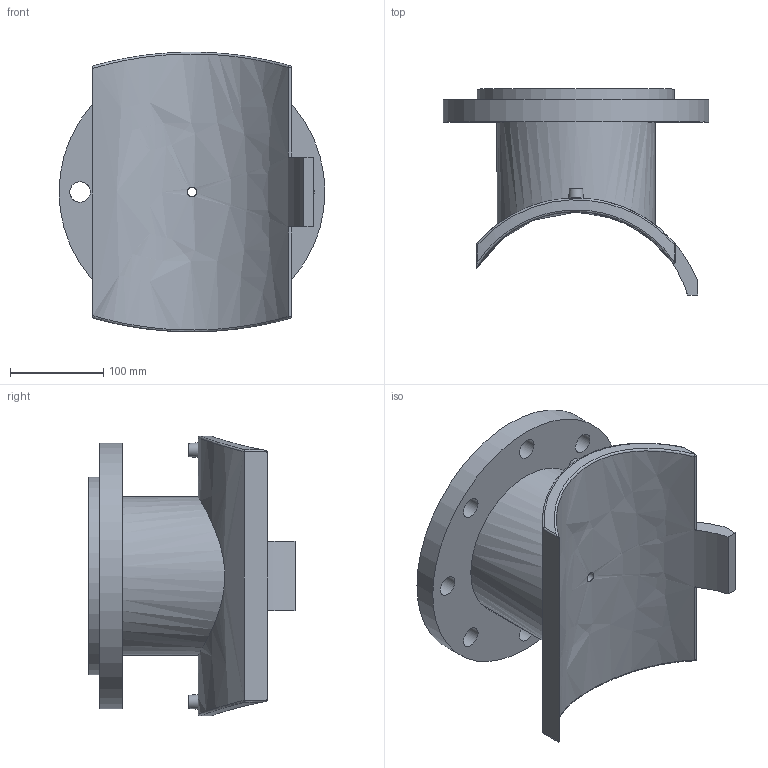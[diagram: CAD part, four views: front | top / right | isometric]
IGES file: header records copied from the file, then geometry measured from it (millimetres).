
Global section: file name: 495903250150T; native system: Autodesk Inventor 2019; preprocessor: unknown; author: KIM; date: 20240403.210005; units: millimetre
Bounding box: 285 x 220.92 x 299.97 mm (x, y, z)
Volume: 3361255.3 mm3; surface area: 400065.7 mm2
Topology: 1 solids, 1 shells, 58 faces, 151 edges, 118 vertices
Faces by surface type: bspline 58
